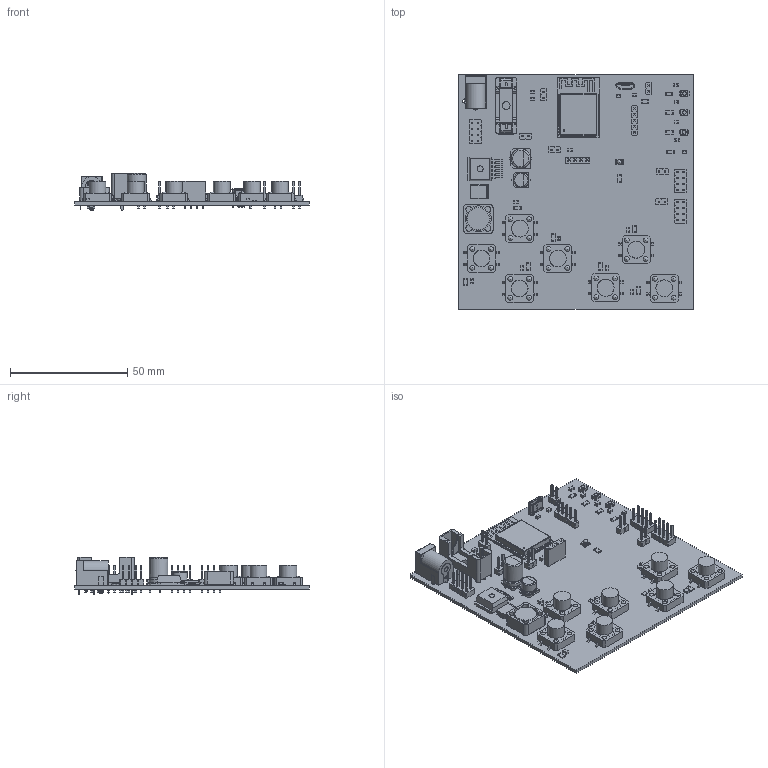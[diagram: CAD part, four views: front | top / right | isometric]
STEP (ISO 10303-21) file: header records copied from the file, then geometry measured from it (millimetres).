
FILE_DESCRIPTION(('KiCad electronic assembly'),'2;1');
FILE_NAME('hmi_subsystem_314.step','2026-04-22T16:27:51',('Pcbnew'),( 'Kicad'),'Open CASCADE STEP processor 7.9','KiCad to STEP converter' ,'Unknown');
FILE_SCHEMA(('AUTOMOTIVE_DESIGN { 1 0 10303 214 1 1 1 1 }'));
Length unit declared in the file: millimetre
Products named in the file (28): hmi_subsystem_314 1; TL3300CF160Q; C_0805_2012Metric; R_1206_3216Metric; 4628--3DModel-STEP-510211; 4628_4628; PinHeader_1x05_P2.54mm_Vertical; PinHeader_1x02_P2.54mm_Vertical; B3U-1000P--3DModel-STEP-56544; ESP32-S3-WROOM-1-N4; PinHeader_2x04_P2.54mm_Vertical; LED_0805_2012Metric; TO-263-5_TabPin3; hmi_subsystem_314 1.26.1; L_Bourns_SRR1260; CP_Elec_8x11.9; USB3131-30-0230-A--3DModel-STEP-56544; CP_Elec_6.3x5.9; BarrelJack_Horizontal; QBLP653_QBLP653R_MONO; Part 4; Part 3; Part 2; Part 1; Part 5; PinSocket_1x04_P2.54mm_Vertical; D_SMC; hmi_subsystem_314_PCB
Assembly tree (69 placements, depth 3):
  hmi_subsystem_314 1
    TL3300CF160Q  x7
    C_0805_2012Metric  x15
    R_1206_3216Metric  x13
    4628--3DModel-STEP-510211
      4628_4628
    PinHeader_1x05_P2.54mm_Vertical
    PinHeader_1x02_P2.54mm_Vertical  x6
    B3U-1000P--3DModel-STEP-56544  x3
    ESP32-S3-WROOM-1-N4
    PinHeader_2x04_P2.54mm_Vertical  x3
    LED_0805_2012Metric  x2
    TO-263-5_TabPin3
      hmi_subsystem_314 1.26.1
    L_Bourns_SRR1260
    CP_Elec_8x11.9
    USB3131-30-0230-A--3DModel-STEP-56544
    CP_Elec_6.3x5.9
    BarrelJack_Horizontal
    QBLP653_QBLP653R_MONO
      Part 4
      Part 3
      Part 2
      Part 1
      Part 5
    PinSocket_1x04_P2.54mm_Vertical
    D_SMC
    hmi_subsystem_314_PCB
Bounding box: 100 x 100 x 15.95 mm (x, y, z)
Volume: 24672.1 mm3; surface area: 38612.3 mm2
Topology: 154 solids, 154 shells, 5890 faces, 14975 edges, 9635 vertices
Faces by surface type: plane 4594, cylinder 1114, bspline 97, torus 43, sphere 28, cone 10, revolution 2, extrusion 2
Full cylindrical faces by diameter (mm): 0.2 x2, 0.406 x5, 1 x47, 1.32 x2, 1.5 x2, 1.6 x3, 2 x2, 2.5 x1, 3 x7, 4.84 x7, 6.3 x3, 7.1 x7, 7.15 x7, 8 x2, 8.412 x7, 10 x1
Entity records: 101425 total; most frequent: CARTESIAN_POINT 17712, ORIENTED_EDGE 16060, DIRECTION 15078, EDGE_CURVE 8030, VECTOR 6862, LINE 6860, VERTEX_POINT 5194, AXIS2_PLACEMENT_3D 4107
